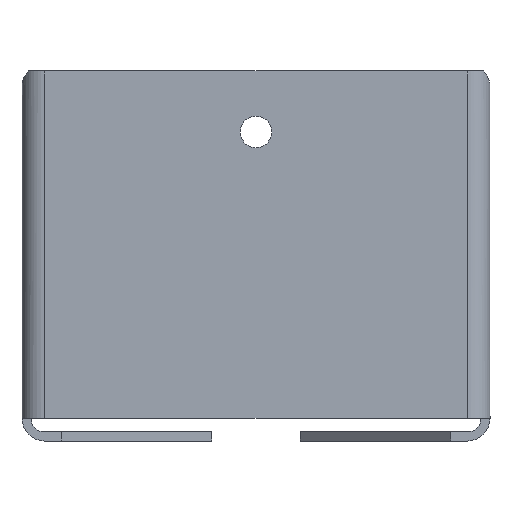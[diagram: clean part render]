
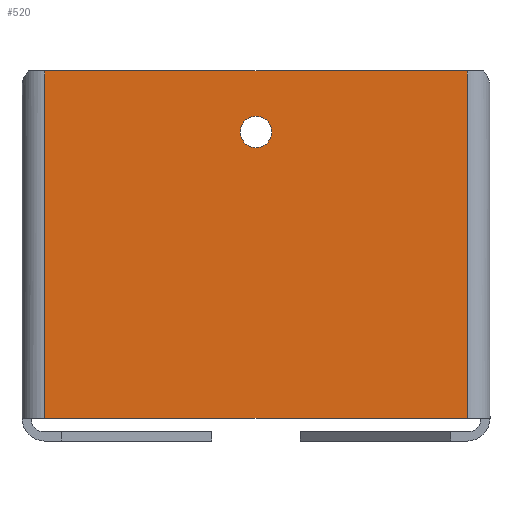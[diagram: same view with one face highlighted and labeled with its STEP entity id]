
A CAD part, front view. The second image highlights one B-rep face of the part: STEP entity #520.
In plain terms, the highlighted planar face has unit normal (0, -1, 0).
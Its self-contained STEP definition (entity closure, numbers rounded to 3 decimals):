
#172 = AXIS2_PLACEMENT_3D ( 'NONE', #1987, #263, #2191 ) ;
#229 = ORIENTED_EDGE ( 'NONE', *, *, #2499, .T. ) ;
#263 = DIRECTION ( 'NONE',  ( 0., 1., 0. ) ) ;
#264 = EDGE_LOOP ( 'NONE', ( #1654, #516, #1408, #2627 ) ) ;
#309 = EDGE_CURVE ( 'NONE', #2072, #532, #1426, .T. ) ;
#495 = CARTESIAN_POINT ( 'NONE',  ( 143.142, 0., 40. ) ) ;
#516 = ORIENTED_EDGE ( 'NONE', *, *, #309, .T. ) ;
#520 = ADVANCED_FACE ( 'NONE', ( #2331, #2699 ), #2646, .T. ) ;
#531 = VECTOR ( 'NONE', #2471, 1000. ) ;
#532 = VERTEX_POINT ( 'NONE', #921 ) ;
#566 = ORIENTED_EDGE ( 'NONE', *, *, #1186, .T. ) ;
#575 = VERTEX_POINT ( 'NONE', #495 ) ;
#728 = DIRECTION ( 'NONE',  ( 0., -1., 0. ) ) ;
#756 = VERTEX_POINT ( 'NONE', #2729 ) ;
#839 = CIRCLE ( 'NONE', #172, 3.5 ) ;
#920 = AXIS2_PLACEMENT_3D ( 'NONE', #930, #728, #2391 ) ;
#921 = CARTESIAN_POINT ( 'NONE',  ( 236.858, 0., 40. ) ) ;
#927 = DIRECTION ( 'NONE',  ( 1., 0., 0. ) ) ;
#930 = CARTESIAN_POINT ( 'NONE',  ( 0., 0., 0. ) ) ;
#968 = EDGE_CURVE ( 'NONE', #575, #532, #1983, .T. ) ;
#1036 = DIRECTION ( 'NONE',  ( 0., 0., 1. ) ) ;
#1054 = EDGE_LOOP ( 'NONE', ( #229, #566 ) ) ;
#1073 = AXIS2_PLACEMENT_3D ( 'NONE', #1862, #1230, #1036 ) ;
#1186 = EDGE_CURVE ( 'NONE', #2052, #756, #839, .T. ) ;
#1230 = DIRECTION ( 'NONE',  ( 0., 1., 0. ) ) ;
#1357 = CARTESIAN_POINT ( 'NONE',  ( 143.142, 0., 0. ) ) ;
#1385 = CARTESIAN_POINT ( 'NONE',  ( 0., 0., -37. ) ) ;
#1408 = ORIENTED_EDGE ( 'NONE', *, *, #968, .F. ) ;
#1426 = LINE ( 'NONE', #1485, #2199 ) ;
#1485 = CARTESIAN_POINT ( 'NONE',  ( 236.858, 0., 0. ) ) ;
#1495 = CARTESIAN_POINT ( 'NONE',  ( 236.858, 0., -37. ) ) ;
#1550 = EDGE_CURVE ( 'NONE', #2239, #575, #2195, .T. ) ;
#1572 = DIRECTION ( 'NONE',  ( 0., 0., 1. ) ) ;
#1654 = ORIENTED_EDGE ( 'NONE', *, *, #2459, .T. ) ;
#1663 = CIRCLE ( 'NONE', #1073, 3.5 ) ;
#1862 = CARTESIAN_POINT ( 'NONE',  ( 190., 0., 26.5 ) ) ;
#1912 = VECTOR ( 'NONE', #927, 1000. ) ;
#1983 = LINE ( 'NONE', #2174, #1912 ) ;
#1987 = CARTESIAN_POINT ( 'NONE',  ( 190., 0., 26.5 ) ) ;
#2052 = VERTEX_POINT ( 'NONE', #2325 ) ;
#2072 = VERTEX_POINT ( 'NONE', #1495 ) ;
#2119 = DIRECTION ( 'NONE',  ( 0., 0., 1. ) ) ;
#2168 = CARTESIAN_POINT ( 'NONE',  ( 143.142, 0., -37. ) ) ;
#2174 = CARTESIAN_POINT ( 'NONE',  ( 0., 0., 40. ) ) ;
#2190 = LINE ( 'NONE', #1385, #531 ) ;
#2191 = DIRECTION ( 'NONE',  ( 0., 0., 1. ) ) ;
#2195 = LINE ( 'NONE', #1357, #2230 ) ;
#2199 = VECTOR ( 'NONE', #2119, 1000. ) ;
#2230 = VECTOR ( 'NONE', #1572, 1000. ) ;
#2239 = VERTEX_POINT ( 'NONE', #2168 ) ;
#2325 = CARTESIAN_POINT ( 'NONE',  ( 190., 0., 23. ) ) ;
#2331 = FACE_BOUND ( 'NONE', #1054, .T. ) ;
#2391 = DIRECTION ( 'NONE',  ( 0., 0., -1. ) ) ;
#2459 = EDGE_CURVE ( 'NONE', #2239, #2072, #2190, .T. ) ;
#2471 = DIRECTION ( 'NONE',  ( 1., 0., 0. ) ) ;
#2499 = EDGE_CURVE ( 'NONE', #756, #2052, #1663, .T. ) ;
#2627 = ORIENTED_EDGE ( 'NONE', *, *, #1550, .F. ) ;
#2646 = PLANE ( 'NONE',  #920 ) ;
#2699 = FACE_OUTER_BOUND ( 'NONE', #264, .T. ) ;
#2729 = CARTESIAN_POINT ( 'NONE',  ( 190., 0., 30. ) ) ;
